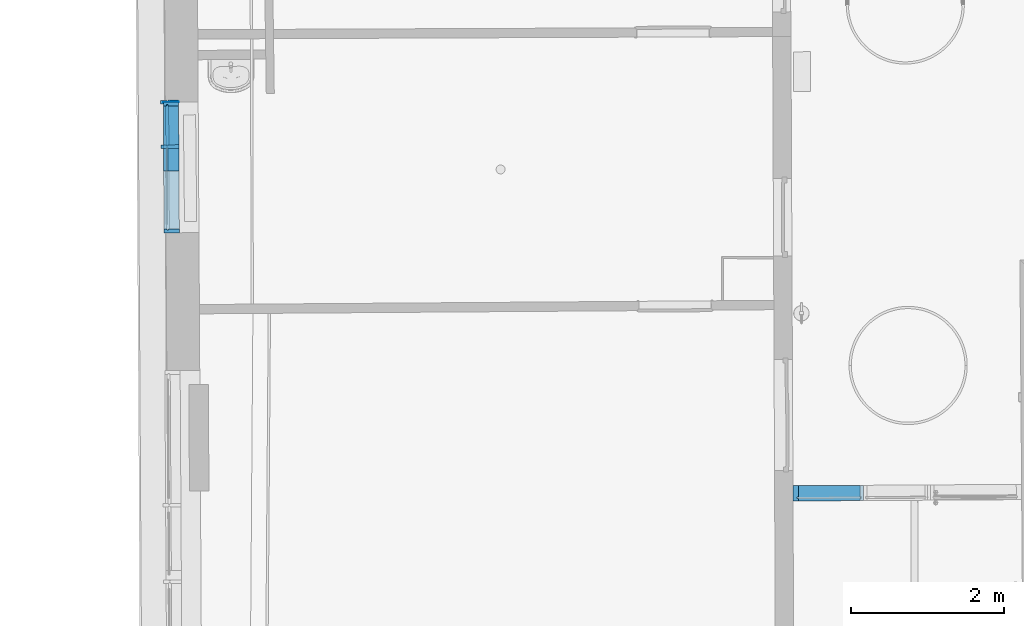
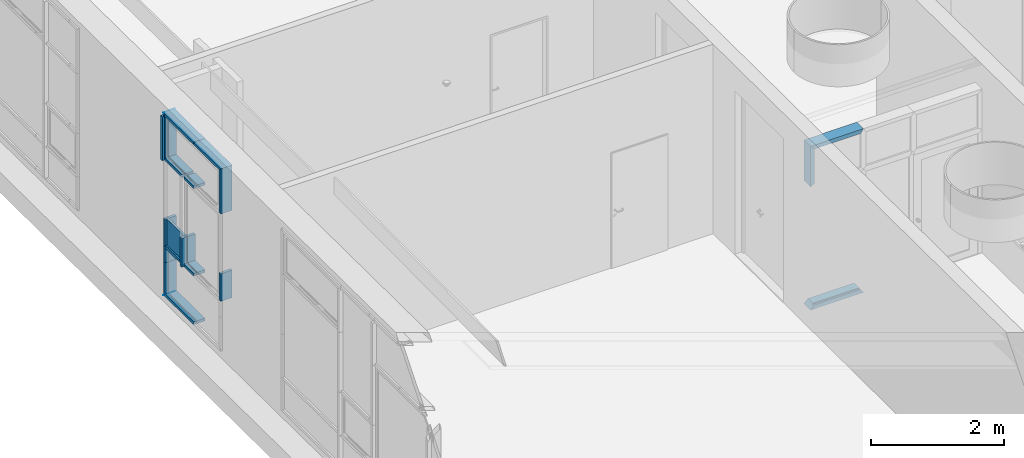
# One storey, part 122 of 158: 21 building element parts, 2 elements without a shape of their own.
"""IFC2X3 building model written with IfcOpenShell, lengths in metres."""

from ifc_helpers import new_model, entity, si_unit, converted_unit, derived_unit, money_unit, direction, frame, origin_with_axes, place, context, subcontext, project, spatial, faceted_brep, material, type_object, element, aggregate, save


model = new_model("IFC2X3")

# Units and contexts
model_context = context("Model", 3, precision=1e-05, world=origin_with_axes(), true_north=direction((0.0, 1.0)))
body_context = subcontext(model_context, "Body", "Model", "MODEL_VIEW")
ifc_project = project(units=[si_unit("LENGTHUNIT", "METRE"), si_unit("AREAUNIT", "SQUARE_METRE"), si_unit("VOLUMEUNIT", "CUBIC_METRE"), converted_unit("PLANEANGLEUNIT", "DEGREE", entity("IfcPlaneAngleMeasure", 0.0174532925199), si_unit("PLANEANGLEUNIT", "RADIAN"), dimensions=[0, 0, 0, 0, 0, 0, 0]), money_unit("EUR"), converted_unit("TIMEUNIT", "Year", entity("IfcTimeMeasure", 31556926.0), si_unit("TIMEUNIT", "SECOND"), dimensions=[0, 0, 1, 0, 0, 0, 0]), si_unit("MASSUNIT", "GRAM", prefix="KILO"), si_unit("THERMODYNAMICTEMPERATUREUNIT", "DEGREE_CELSIUS"), si_unit("LUMINOUSINTENSITYUNIT", "LUMEN"), si_unit("ENERGYUNIT", "JOULE", prefix="MEGA"), derived_unit("THERMALCONDUCTANCEUNIT", [(si_unit("POWERUNIT", "WATT"), 1), (si_unit("LENGTHUNIT", "METRE"), -1), (si_unit("THERMODYNAMICTEMPERATUREUNIT", "KELVIN"), -1)]), derived_unit("SPECIFICHEATCAPACITYUNIT", [(si_unit("ENERGYUNIT", "JOULE"), 1), (si_unit("MASSUNIT", "GRAM", prefix="KILO"), -1), (si_unit("THERMODYNAMICTEMPERATUREUNIT", "KELVIN"), -1)]), derived_unit("MASSDENSITYUNIT", [(si_unit("MASSUNIT", "GRAM", prefix="KILO"), 1), (si_unit("VOLUMEUNIT", "CUBIC_METRE"), -1)])], contexts=[model_context])

# Site, building, storey
site_placement = place(None, origin_with_axes())
site = spatial("IfcSite", under=ifc_project, at=site_placement, Name="Gelände", CompositionType="ELEMENT")
building_placement = place(site_placement, origin_with_axes())
building = spatial("IfcBuilding", under=site, at=building_placement, Name="Gebäude", CompositionType="ELEMENT")
storey_placement = place(building_placement, origin_with_axes())
storey = spatial("IfcBuildingStorey", under=building, at=storey_placement, Name="ERDGESCHOSS", CompositionType="ELEMENT", Elevation=0.0)

# Proxy, building element parts
building_element_proxy_type = type_object("IfcBuildingElementProxyType", Name="Fassadentyp", PredefinedType="NOTDEFINED")
proxy_1_placement = place(storey_placement, frame((-34.8671799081, 43.8049527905, 1.34043902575), z_axis=(0.0, 0.0, 1.0), x_axis=(1.0, 0.0, 0.0)))
proxy_1 = element("IfcBuildingElementProxy", 1, at=proxy_1_placement, inside=storey, type_object=building_element_proxy_type, Name="Fassade-002")
ifc_material_1 = material(Name="45_Glas, Normalglas")
building_element_part_1_placement = place(proxy_1_placement, origin_with_axes())
building_element_part_1 = element("IfcBuildingElementPart", 2, at=building_element_part_1_placement, material=ifc_material_1, Name="45_Glas, Normalglas", context=body_context, shape_type="Brep", body=[
    faceted_brep([(0.0184981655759, 0.256133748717, 1.42000003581), (0.0153362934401, 0.795258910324, 1.42000003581), (-0.0246630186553, 0.795024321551, 1.42000003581), (-0.0215011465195, 0.255899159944, 1.42000003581), (0.0184981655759, 0.256133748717, 0.925545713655), (0.0154184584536, 0.781249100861, 0.925545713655), (0.0154184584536, 0.781249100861, 0.915545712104), (0.0153362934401, 0.795258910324, 0.915545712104), (-0.0246630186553, 0.795024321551, 0.915545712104), (-0.0245808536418, 0.781014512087, 0.915545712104), (-0.0245808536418, 0.781014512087, 0.925545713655), (-0.0215011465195, 0.255899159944, 0.925545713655)], [[[0, 1, 2, 3]], [[0, 4, 5, 6, 7, 1]], [[1, 7, 8, 2]], [[3, 2, 8, 9, 10, 11]], [[4, 0, 3, 11]], [[5, 4, 11, 10]], [[6, 5, 10, 9]], [[7, 6, 9, 8]]]),
])
ifc_material_2 = material(Name="53_Metall, Aluminium")
building_element_part_2_placement = place(proxy_1_placement, origin_with_axes())
building_element_part_2 = element("IfcBuildingElementPart", 3, at=building_element_part_2_placement, material=ifc_material_2, Name="53_Metall, Aluminium", context=body_context, shape_type="Brep", body=[
    faceted_brep([(0.0104198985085, -0.0715668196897, 0.035), (-0.00957975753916, -0.0716841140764, 0.035), (-0.00957975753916, -0.0716841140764, 0.05), (-0.0495790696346, -0.0719187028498, 0.05), (-0.0495790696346, -0.0719187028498, 0.0), (0.150417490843, -0.0707457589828, 0.0), (0.150417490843, -0.0707457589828, 0.05), (0.0104198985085, -0.0715668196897, 0.05), (0.00514165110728, 0.828417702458, 0.035), (-0.0148580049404, 0.828300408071, 0.035), (-0.0148580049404, 0.828300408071, 0.05), (-0.0548573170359, 0.828065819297, 0.05), (-0.0548573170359, 0.828065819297, 0.0), (0.145139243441, 0.829238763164, 0.0), (0.145139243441, 0.829238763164, 0.05), (0.00514165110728, 0.828417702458, 0.05)], [[[0, 1, 2, 3, 4, 5, 6, 7]], [[1, 0, 8, 9]], [[10, 2, 1, 9]], [[2, 10, 11, 3]], [[12, 4, 3, 11]], [[13, 5, 4, 12]], [[14, 6, 5, 13]], [[15, 7, 6, 14]], [[0, 7, 15, 8]], [[8, 15, 14, 13, 12, 11, 10, 9]]]),
])
building_element_part_3_placement = place(proxy_1_placement, origin_with_axes())
building_element_part_3 = element("IfcBuildingElementPart", 4, at=building_element_part_3_placement, material=ifc_material_2, Name="53_Metall, Aluminium", context=body_context, shape_type="Brep", body=[
    faceted_brep([(0.0104198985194, -0.0715668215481, 0.905545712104), (0.0104198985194, -0.0715668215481, 0.890545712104), (0.150417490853, -0.0707457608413, 0.890545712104), (0.150417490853, -0.0707457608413, 0.940545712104), (0.0104198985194, -0.0715668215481, 0.940545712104), (0.0104198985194, -0.0715668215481, 0.925545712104), (-0.00957975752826, -0.0716841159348, 0.925545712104), (-0.00957975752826, -0.0716841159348, 0.940545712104), (-0.0495790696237, -0.0719187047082, 0.940545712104), (-0.0495790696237, -0.0719187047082, 0.890545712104), (-0.00957975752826, -0.0716841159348, 0.890545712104), (-0.00957975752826, -0.0716841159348, 0.905545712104), (0.00870360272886, 0.221075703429, 0.905545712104), (0.00870360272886, 0.221075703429, 0.890545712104), (0.148701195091, 0.221896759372, 0.890545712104), (0.148701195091, 0.221896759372, 0.940545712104), (0.00870360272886, 0.221075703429, 0.940545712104), (0.00870360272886, 0.221075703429, 0.925545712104), (-0.0112960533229, 0.220958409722, 0.925545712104), (-0.0112960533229, 0.220958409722, 0.940545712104), (-0.0512953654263, 0.22072382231, 0.940545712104), (-0.0512953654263, 0.22072382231, 0.890545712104), (-0.0112960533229, 0.220958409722, 0.890545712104), (-0.0112960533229, 0.220958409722, 0.905545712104)], [[[0, 1, 2, 3, 4, 5, 6, 7, 8, 9, 10, 11]], [[1, 0, 12, 13]], [[1, 13, 14, 2]], [[2, 14, 15, 3]], [[4, 3, 15, 16]], [[4, 16, 17, 5]], [[5, 17, 18, 6]], [[7, 6, 18, 19]], [[19, 20, 8, 7]], [[8, 20, 21, 9]], [[22, 10, 9, 21]], [[11, 10, 22, 23]], [[0, 11, 23, 12]], [[23, 22, 21, 20, 19, 18, 17, 16, 15, 14, 13, 12]]]),
])
building_element_part_4_placement = place(proxy_1_placement, origin_with_axes())
building_element_part_4 = element("IfcBuildingElementPart", 5, at=building_element_part_4_placement, material=ifc_material_2, Name="53_Metall, Aluminium", context=body_context, shape_type="Brep", body=[
    faceted_brep([(0.00533646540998, 0.795200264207, 1.42000003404), (0.0054244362, 0.780200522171, 1.42000003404), (0.145422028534, 0.781021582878, 1.42000003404), (0.145128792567, 0.831020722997, 1.42000003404), (-0.0548677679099, 0.82984777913, 1.42000003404), (-0.0545745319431, 0.779848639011, 1.42000003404), (-0.0145752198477, 0.780083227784, 1.42000003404), (-0.0146631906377, 0.79508296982, 1.42000003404), (0.00533646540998, 0.795200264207, 0.915545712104), (0.0054244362, 0.780200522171, 0.915545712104), (0.145422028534, 0.781021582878, 0.915545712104), (0.145128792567, 0.831020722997, 0.915545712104), (-0.0548677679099, 0.82984777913, 0.915545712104), (-0.0545745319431, 0.779848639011, 0.915545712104), (-0.0145752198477, 0.780083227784, 0.915545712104), (-0.0146631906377, 0.79508296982, 0.915545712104)], [[[0, 1, 2, 3, 4, 5, 6, 7]], [[0, 8, 9, 1]], [[9, 10, 2, 1]], [[10, 11, 3, 2]], [[11, 12, 4, 3]], [[12, 13, 5, 4]], [[6, 5, 13, 14]], [[14, 15, 7, 6]], [[7, 15, 8, 0]], [[8, 15, 14, 13, 12, 11, 10, 9]]]),
])
building_element_part_5_placement = place(proxy_1_placement, origin_with_axes())
building_element_part_5 = element("IfcBuildingElementPart", 6, at=building_element_part_5_placement, material=ifc_material_2, Name="53_Metall, Aluminium", context=body_context, shape_type="Brep", body=[
    faceted_brep([(0.00533646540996, 0.795200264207, 0.620000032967), (0.00542443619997, 0.780200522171, 0.620000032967), (0.145422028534, 0.781021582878, 0.620000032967), (0.145128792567, 0.831020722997, 0.620000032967), (-0.0548677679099, 0.82984777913, 0.620000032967), (-0.0545745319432, 0.779848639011, 0.620000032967), (-0.0145752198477, 0.780083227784, 0.620000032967), (-0.0146631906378, 0.79508296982, 0.620000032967), (0.00533646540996, 0.795200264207, 0.0349999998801), (0.00542443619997, 0.780200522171, 0.0499999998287), (0.145422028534, 0.781021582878, 0.0499999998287), (0.145128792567, 0.831020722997, 0.0), (-0.0548677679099, 0.82984777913, 0.0), (-0.0545745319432, 0.779848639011, 0.0499999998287), (-0.0145752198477, 0.780083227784, 0.0499999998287), (-0.0146631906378, 0.79508296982, 0.0349999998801)], [[[0, 1, 2, 3, 4, 5, 6, 7]], [[0, 8, 9, 1]], [[9, 10, 2, 1]], [[2, 10, 11, 3]], [[3, 11, 12, 4]], [[4, 12, 13, 5]], [[6, 5, 13, 14]], [[14, 15, 7, 6]], [[7, 15, 8, 0]], [[8, 15, 14, 13, 12, 11, 10, 9]]]),
])
building_element_part_6_placement = place(proxy_1_placement, origin_with_axes())
building_element_part_6 = element("IfcBuildingElementPart", 7, at=building_element_part_6_placement, material=ifc_material_2, Name="53_Metall, Aluminium", context=body_context, shape_type="Brep", body=[
    faceted_brep([(0.00841036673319, 0.271074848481, 2.51000003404), (0.00841036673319, 0.271074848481, 2.49500003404), (0.148407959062, 0.271895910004, 2.49500003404), (0.148407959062, 0.271895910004, 2.54500003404), (0.00841036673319, 0.271074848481, 2.54500003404), (0.00841036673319, 0.271074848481, 2.53000003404), (-0.0115892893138, 0.270957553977, 2.53000003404), (-0.0115892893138, 0.270957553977, 2.54500003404), (-0.0515886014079, 0.270722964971, 2.54500003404), (-0.0515886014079, 0.270722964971, 2.49500003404), (-0.0115892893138, 0.270957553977, 2.49500003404), (-0.0115892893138, 0.270957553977, 2.51000003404), (0.00528826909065, 0.803418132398, 2.51000003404), (0.00528826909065, 0.803418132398, 2.49500003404), (0.145285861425, 0.804239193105, 2.49500003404), (0.145285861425, 0.804239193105, 2.54500003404), (0.00528826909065, 0.803418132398, 2.54500003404), (0.00528826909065, 0.803418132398, 2.53000003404), (-0.0147113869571, 0.803300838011, 2.53000003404), (-0.0147113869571, 0.803300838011, 2.54500003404), (-0.0547106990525, 0.803066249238, 2.54500003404), (-0.0547106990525, 0.803066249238, 2.49500003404), (-0.0147113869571, 0.803300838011, 2.49500003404), (-0.0147113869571, 0.803300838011, 2.51000003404)], [[[0, 1, 2, 3, 4, 5, 6, 7, 8, 9, 10, 11]], [[1, 0, 12, 13]], [[1, 13, 14, 2]], [[2, 14, 15, 3]], [[4, 3, 15, 16]], [[4, 16, 17, 5]], [[5, 17, 18, 6]], [[7, 6, 18, 19]], [[19, 20, 8, 7]], [[8, 20, 21, 9]], [[22, 10, 9, 21]], [[11, 10, 22, 23]], [[0, 11, 23, 12]], [[23, 22, 21, 20, 19, 18, 17, 16, 15, 14, 13, 12]]]),
])
building_element_part_7_placement = place(proxy_1_placement, origin_with_axes())
building_element_part_7 = element("IfcBuildingElementPart", 8, at=building_element_part_7_placement, material=ifc_material_2, Name="53_Metall, Aluminium", context=body_context, shape_type="Brep", body=[
    faceted_brep([(0.0149540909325, -0.844683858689, 1.42000003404), (-0.00504556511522, -0.844801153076, 1.42000003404), (-0.00513353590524, -0.82980141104, 1.42000003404), (-0.0451328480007, -0.830035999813, 1.42000003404), (-0.0448396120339, -0.880035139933, 1.42000003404), (0.155156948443, -0.878862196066, 1.42000003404), (0.154863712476, -0.828863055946, 1.42000003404), (0.0148661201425, -0.829684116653, 1.42000003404), (0.0149540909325, -0.844683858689, 0.915545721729), (-0.00504556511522, -0.844801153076, 0.915545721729), (-0.00513353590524, -0.82980141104, 0.915545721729), (-0.0451328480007, -0.830035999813, 0.915545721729), (-0.0448396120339, -0.880035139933, 0.915545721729), (0.155156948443, -0.878862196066, 0.915545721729), (0.154863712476, -0.828863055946, 0.915545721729), (0.0148661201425, -0.829684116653, 0.915545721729)], [[[0, 1, 2, 3, 4, 5, 6, 7]], [[1, 0, 8, 9]], [[10, 2, 1, 9]], [[2, 10, 11, 3]], [[12, 4, 3, 11]], [[13, 5, 4, 12]], [[14, 6, 5, 13]], [[15, 7, 6, 14]], [[0, 7, 15, 8]], [[8, 15, 14, 13, 12, 11, 10, 9]]]),
])
building_element_part_8_placement = place(proxy_1_placement, origin_with_axes())
building_element_part_8 = element("IfcBuildingElementPart", 9, at=building_element_part_8_placement, material=ifc_material_2, Name="53_Metall, Aluminium", context=body_context, shape_type="Brep", body=[
    faceted_brep([(0.0104198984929, -0.0715668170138, 2.51000003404), (0.0104198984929, -0.0715668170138, 2.49500003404), (0.150417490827, -0.0707457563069, 2.49500003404), (0.150417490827, -0.0707457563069, 2.54500003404), (0.0104198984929, -0.0715668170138, 2.54500003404), (0.0104198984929, -0.0715668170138, 2.53000003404), (-0.00957975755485, -0.0716841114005, 2.53000003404), (-0.00957975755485, -0.0716841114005, 2.54500003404), (-0.0495790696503, -0.0719187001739, 2.54500003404), (-0.0495790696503, -0.0719187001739, 2.49500003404), (-0.00957975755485, -0.0716841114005, 2.49500003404), (-0.00957975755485, -0.0716841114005, 2.51000003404), (0.00870360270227, 0.221075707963, 2.51000003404), (0.00870360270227, 0.221075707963, 2.49500003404), (0.148701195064, 0.221896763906, 2.49500003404), (0.148701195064, 0.221896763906, 2.54500003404), (0.00870360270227, 0.221075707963, 2.54500003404), (0.00870360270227, 0.221075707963, 2.53000003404), (-0.0112960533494, 0.220958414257, 2.53000003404), (-0.0112960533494, 0.220958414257, 2.54500003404), (-0.0512953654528, 0.220723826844, 2.54500003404), (-0.0512953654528, 0.220723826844, 2.49500003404), (-0.0112960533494, 0.220958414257, 2.49500003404), (-0.0112960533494, 0.220958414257, 2.51000003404)], [[[0, 1, 2, 3, 4, 5, 6, 7, 8, 9, 10, 11]], [[1, 0, 12, 13]], [[1, 13, 14, 2]], [[2, 14, 15, 3]], [[4, 3, 15, 16]], [[4, 16, 17, 5]], [[5, 17, 18, 6]], [[7, 6, 18, 19]], [[19, 20, 8, 7]], [[8, 20, 21, 9]], [[22, 10, 9, 21]], [[11, 10, 22, 23]], [[0, 11, 23, 12]], [[23, 22, 21, 20, 19, 18, 17, 16, 15, 14, 13, 12]]]),
])
building_element_part_9_placement = place(proxy_1_placement, origin_with_axes())
building_element_part_9 = element("IfcBuildingElementPart", 10, at=building_element_part_9_placement, material=ifc_material_2, Name="53_Metall, Aluminium", context=body_context, shape_type="Brep", body=[
    faceted_brep([(0.0084103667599, 0.271074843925, 0.905545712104), (0.0084103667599, 0.271074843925, 0.890545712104), (0.148407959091, 0.271895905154, 0.890545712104), (0.148407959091, 0.271895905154, 0.940545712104), (0.0084103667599, 0.271074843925, 0.940545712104), (0.0084103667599, 0.271074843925, 0.925545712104), (-0.0115892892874, 0.270957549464, 0.925545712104), (-0.0115892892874, 0.270957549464, 0.940545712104), (-0.0515886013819, 0.270722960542, 0.940545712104), (-0.0515886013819, 0.270722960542, 0.890545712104), (-0.0115892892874, 0.270957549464, 0.890545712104), (-0.0115892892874, 0.270957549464, 0.905545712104), (0.00541863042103, 0.781190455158, 0.905545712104), (0.00541863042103, 0.781190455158, 0.890545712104), (0.145416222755, 0.782011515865, 0.890545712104), (0.145416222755, 0.782011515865, 0.940545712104), (0.00541863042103, 0.781190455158, 0.940545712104), (0.00541863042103, 0.781190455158, 0.925545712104), (-0.0145810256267, 0.781073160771, 0.925545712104), (-0.0145810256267, 0.781073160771, 0.940545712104), (-0.0545803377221, 0.780838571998, 0.940545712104), (-0.0545803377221, 0.780838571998, 0.890545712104), (-0.0145810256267, 0.781073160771, 0.890545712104), (-0.0145810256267, 0.781073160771, 0.905545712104)], [[[0, 1, 2, 3, 4, 5, 6, 7, 8, 9, 10, 11]], [[1, 0, 12, 13]], [[1, 13, 14, 2]], [[3, 2, 14, 15]], [[4, 3, 15, 16]], [[4, 16, 17, 5]], [[5, 17, 18, 6]], [[7, 6, 18, 19]], [[19, 20, 8, 7]], [[9, 8, 20, 21]], [[22, 10, 9, 21]], [[11, 10, 22, 23]], [[0, 11, 23, 12]], [[23, 22, 21, 20, 19, 18, 17, 16, 15, 14, 13, 12]]]),
])
building_element_part_10_placement = place(proxy_1_placement, origin_with_axes())
building_element_part_10 = element("IfcBuildingElementPart", 11, at=building_element_part_10_placement, material=ifc_material_2, Name="53_Metall, Aluminium", context=body_context, shape_type="Brep", body=[
    faceted_brep([(0.0104198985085, -0.0715668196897, 3.31499993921), (0.0104198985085, -0.0715668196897, 3.29999993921), (0.150417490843, -0.0707457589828, 3.29999993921), (0.150417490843, -0.0707457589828, 3.34999993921), (-0.0495790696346, -0.0719187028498, 3.34999993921), (-0.0495790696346, -0.0719187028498, 3.29999993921), (-0.00957975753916, -0.0716841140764, 3.29999993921), (-0.00957975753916, -0.0716841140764, 3.31499993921), (0.00514165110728, 0.828417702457, 3.31499993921), (0.00514165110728, 0.828417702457, 3.29999993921), (0.145139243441, 0.829238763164, 3.29999993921), (0.145139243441, 0.829238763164, 3.34999993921), (-0.0548573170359, 0.828065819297, 3.34999993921), (-0.0548573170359, 0.828065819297, 3.29999993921), (-0.0148580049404, 0.828300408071, 3.29999993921), (-0.0148580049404, 0.828300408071, 3.31499993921)], [[[0, 1, 2, 3, 4, 5, 6, 7]], [[0, 8, 9, 1]], [[9, 10, 2, 1]], [[10, 11, 3, 2]], [[11, 12, 4, 3]], [[12, 13, 5, 4]], [[6, 5, 13, 14]], [[14, 15, 7, 6]], [[7, 15, 8, 0]], [[8, 15, 14, 13, 12, 11, 10, 9]]]),
])
building_element_part_11_placement = place(proxy_1_placement, origin_with_axes())
building_element_part_11 = element("IfcBuildingElementPart", 12, at=building_element_part_11_placement, material=ifc_material_2, Name="53_Metall, Aluminium", context=body_context, shape_type="Brep", body=[
    faceted_brep([(0.00533646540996, 0.795200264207, 3.31499994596), (0.00542443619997, 0.780200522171, 3.29999994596), (0.145422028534, 0.781021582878, 3.29999994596), (0.145128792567, 0.831020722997, 3.34999994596), (-0.0548677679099, 0.82984777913, 3.34999994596), (-0.0545745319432, 0.779848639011, 3.29999994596), (-0.0145752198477, 0.780083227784, 3.29999994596), (-0.0146631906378, 0.79508296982, 3.31499994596), (0.00533646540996, 0.795200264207, 2.52000003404), (0.00542443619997, 0.780200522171, 2.52000003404), (0.145422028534, 0.781021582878, 2.52000003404), (0.145128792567, 0.831020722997, 2.52000003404), (-0.0548677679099, 0.82984777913, 2.52000003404), (-0.0545745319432, 0.779848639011, 2.52000003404), (-0.0145752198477, 0.780083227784, 2.52000003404), (-0.0146631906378, 0.79508296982, 2.52000003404)], [[[0, 1, 2, 3, 4, 5, 6, 7]], [[0, 8, 9, 1]], [[9, 10, 2, 1]], [[10, 11, 3, 2]], [[11, 12, 4, 3]], [[12, 13, 5, 4]], [[6, 5, 13, 14]], [[14, 15, 7, 6]], [[7, 15, 8, 0]], [[8, 15, 14, 13, 12, 11, 10, 9]]]),
])
building_element_part_12_placement = place(proxy_1_placement, origin_with_axes())
building_element_part_12 = element("IfcBuildingElementPart", 13, at=building_element_part_12_placement, material=ifc_material_2, Name="53_Metall, Aluminium", context=body_context, shape_type="Brep", body=[
    faceted_brep([(0.00520029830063, 0.818417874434, 3.29999993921), (0.00528826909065, 0.803418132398, 3.29999993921), (0.145285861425, 0.804239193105, 3.29999993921), (0.144992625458, 0.854238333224, 3.29999993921), (0.00499503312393, 0.853417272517, 3.29999993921), (0.00508300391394, 0.838417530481, 3.29999993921), (-0.0149166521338, 0.838300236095, 3.29999993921), (-0.0150046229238, 0.85329997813, 3.29999993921), (-0.0900033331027, 0.85286012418, 3.29999993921), (-0.089710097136, 0.802860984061, 3.29999993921), (-0.0147113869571, 0.803300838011, 3.29999993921), (-0.0147993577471, 0.818300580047, 3.29999993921), (0.00520029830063, 0.818417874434, 2.49500003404), (0.00528826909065, 0.803418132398, 2.49500003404), (0.145285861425, 0.804239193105, 2.49500003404), (0.144992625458, 0.854238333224, 2.49500003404), (0.00499503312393, 0.853417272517, 2.49500003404), (0.00508300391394, 0.838417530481, 2.49500003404), (-0.0149166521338, 0.838300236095, 2.49500003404), (-0.0150046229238, 0.85329997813, 2.49500003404), (-0.0900033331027, 0.85286012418, 2.49500003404), (-0.089710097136, 0.802860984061, 2.49500003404), (-0.0147113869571, 0.803300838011, 2.49500003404), (-0.0147993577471, 0.818300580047, 2.49500003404)], [[[0, 1, 2, 3, 4, 5, 6, 7, 8, 9, 10, 11]], [[1, 0, 12, 13]], [[1, 13, 14, 2]], [[3, 2, 14, 15]], [[4, 3, 15, 16]], [[4, 16, 17, 5]], [[5, 17, 18, 6]], [[7, 6, 18, 19]], [[19, 20, 8, 7]], [[9, 8, 20, 21]], [[22, 10, 9, 21]], [[11, 10, 22, 23]], [[0, 11, 23, 12]], [[23, 22, 21, 20, 19, 18, 17, 16, 15, 14, 13, 12]]]),
])
building_element_part_13_placement = place(proxy_1_placement, origin_with_axes())
building_element_part_13 = element("IfcBuildingElementPart", 14, at=building_element_part_13_placement, material=ifc_material_2, Name="53_Metall, Aluminium", context=body_context, shape_type="Brep", body=[
    faceted_brep([(0.00861563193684, 0.236075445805, 1.42000003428), (0.00870360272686, 0.221075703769, 1.42000003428), (0.148701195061, 0.221896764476, 1.42000003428), (0.148407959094, 0.271895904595, 1.42000003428), (0.00841036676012, 0.271074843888, 1.42000003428), (0.00849833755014, 0.256075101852, 1.42000003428), (-0.0115013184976, 0.255957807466, 1.42000003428), (-0.0115892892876, 0.270957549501, 1.42000003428), (-0.0865879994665, 0.270517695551, 1.42000003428), (-0.0862947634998, 0.220518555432, 1.42000003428), (-0.0112960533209, 0.220958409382, 1.42000003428), (-0.0113840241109, 0.235958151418, 1.42000003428), (0.00861563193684, 0.236075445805, 0.890545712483), (0.00870360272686, 0.221075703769, 0.890545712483), (0.148701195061, 0.221896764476, 0.890545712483), (0.148407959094, 0.271895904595, 0.890545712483), (0.00841036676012, 0.271074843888, 0.890545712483), (0.00849833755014, 0.256075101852, 0.890545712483), (-0.0115013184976, 0.255957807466, 0.890545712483), (-0.0115892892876, 0.270957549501, 0.890545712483), (-0.0865879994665, 0.270517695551, 0.890545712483), (-0.0862947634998, 0.220518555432, 0.890545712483), (-0.0112960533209, 0.220958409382, 0.890545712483), (-0.0113840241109, 0.235958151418, 0.890545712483)], [[[0, 1, 2, 3, 4, 5, 6, 7, 8, 9, 10, 11]], [[1, 0, 12, 13]], [[1, 13, 14, 2]], [[3, 2, 14, 15]], [[4, 3, 15, 16]], [[4, 16, 17, 5]], [[5, 17, 18, 6]], [[7, 6, 18, 19]], [[19, 20, 8, 7]], [[9, 8, 20, 21]], [[22, 10, 9, 21]], [[11, 10, 22, 23]], [[0, 11, 23, 12]], [[23, 22, 21, 20, 19, 18, 17, 16, 15, 14, 13, 12]]]),
])
building_element_part_14_placement = place(proxy_1_placement, origin_with_axes())
building_element_part_14 = element("IfcBuildingElementPart", 15, at=building_element_part_14_placement, material=ifc_material_2, Name="53_Metall, Aluminium", context=body_context, shape_type="Brep", body=[
    faceted_brep([(-0.0548677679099, 0.82984777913, 3.34999993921), (-0.0548573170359, 0.828065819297, 3.34821794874), (-0.0548573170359, 0.828065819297, 3.34999993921), (0.145128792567, 0.831020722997, 3.34999993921), (0.145139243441, 0.829238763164, 3.34821794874), (0.145139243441, 0.829238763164, 3.34999993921)], [[[0, 1, 2]], [[1, 0, 3, 4]], [[1, 4, 5, 2]], [[3, 0, 2, 5]], [[4, 3, 5]]]),
])
building_element_part_15_placement = place(proxy_1_placement, origin_with_axes())
building_element_part_15 = element("IfcBuildingElementPart", 16, at=building_element_part_15_placement, material=ifc_material_2, Name="53_Metall, Aluminium", context=body_context, shape_type="Brep", body=[
    faceted_brep([(-0.0548677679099, 0.82984777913, 0.0), (-0.0548573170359, 0.828065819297, 0.0), (-0.0548573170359, 0.828065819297, 0.00178199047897), (0.145128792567, 0.831020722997, 0.0), (0.145139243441, 0.829238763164, 0.0), (0.145139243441, 0.829238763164, 0.00178199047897)], [[[0, 1, 2]], [[3, 4, 1, 0]], [[2, 1, 4, 5]], [[2, 5, 3, 0]], [[5, 4, 3]]]),
])
building_element_part_16_placement = place(proxy_1_placement, origin_with_axes())
building_element_part_16 = element("IfcBuildingElementPart", 17, at=building_element_part_16_placement, material=ifc_material_2, Name="53_Metall, Aluminium", context=body_context, shape_type="Brep", body=[
    faceted_brep([(0.0149540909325, -0.844683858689, 3.31499993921), (0.0148661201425, -0.829684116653, 3.29999993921), (0.154863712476, -0.828863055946, 3.29999993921), (0.155156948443, -0.878862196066, 3.34999993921), (-0.0448396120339, -0.880035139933, 3.34999993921), (-0.0451328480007, -0.830035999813, 3.29999993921), (-0.00513353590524, -0.82980141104, 3.29999993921), (-0.00504556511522, -0.844801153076, 3.31499993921), (0.0104198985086, -0.0715668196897, 3.31499993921), (0.0104198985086, -0.0715668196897, 3.29999993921), (0.150417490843, -0.0707457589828, 3.29999993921), (0.150417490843, -0.0707457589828, 3.34999993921), (-0.0495790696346, -0.0719187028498, 3.34999993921), (-0.0495790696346, -0.0719187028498, 3.29999993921), (-0.00957975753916, -0.0716841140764, 3.29999993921), (-0.00957975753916, -0.0716841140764, 3.31499993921)], [[[0, 1, 2, 3, 4, 5, 6, 7]], [[0, 8, 9, 1]], [[9, 10, 2, 1]], [[10, 11, 3, 2]], [[11, 12, 4, 3]], [[12, 13, 5, 4]], [[6, 5, 13, 14]], [[14, 15, 7, 6]], [[7, 15, 8, 0]], [[8, 15, 14, 13, 12, 11, 10, 9]]]),
])
building_element_part_17_placement = place(proxy_1_placement, origin_with_axes())
building_element_part_17 = element("IfcBuildingElementPart", 18, at=building_element_part_17_placement, material=ifc_material_2, Name="53_Metall, Aluminium", context=body_context, shape_type="Brep", body=[
    faceted_brep([(0.0149540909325, -0.844683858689, 3.31499994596), (-0.00504556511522, -0.844801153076, 3.31499994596), (-0.00513353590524, -0.82980141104, 3.29999994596), (-0.0451328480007, -0.830035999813, 3.29999994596), (-0.0448396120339, -0.880035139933, 3.34999994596), (0.155156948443, -0.878862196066, 3.34999994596), (0.154863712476, -0.828863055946, 3.29999994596), (0.0148661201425, -0.829684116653, 3.29999994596), (0.0149540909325, -0.844683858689, 2.52000003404), (-0.00504556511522, -0.844801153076, 2.52000003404), (-0.00513353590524, -0.82980141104, 2.52000003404), (-0.0451328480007, -0.830035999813, 2.52000003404), (-0.0448396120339, -0.880035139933, 2.52000003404), (0.155156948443, -0.878862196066, 2.52000003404), (0.154863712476, -0.828863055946, 2.52000003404), (0.0148661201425, -0.829684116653, 2.52000003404)], [[[0, 1, 2, 3, 4, 5, 6, 7]], [[1, 0, 8, 9]], [[10, 2, 1, 9]], [[2, 10, 11, 3]], [[12, 4, 3, 11]], [[13, 5, 4, 12]], [[14, 6, 5, 13]], [[15, 7, 6, 14]], [[0, 7, 15, 8]], [[8, 15, 14, 13, 12, 11, 10, 9]]]),
])
building_element_part_18_placement = place(proxy_1_placement, origin_with_axes())
building_element_part_18 = element("IfcBuildingElementPart", 19, at=building_element_part_18_placement, material=ifc_material_2, Name="53_Metall, Aluminium", context=body_context, shape_type="Brep", body=[
    faceted_brep([(0.00533646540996, 0.795200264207, 0.915545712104), (0.00542443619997, 0.780200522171, 0.915545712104), (0.145422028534, 0.781021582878, 0.915545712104), (0.145128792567, 0.831020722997, 0.915545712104), (-0.0548677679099, 0.82984777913, 0.915545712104), (-0.0545745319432, 0.779848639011, 0.915545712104), (-0.0145752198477, 0.780083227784, 0.915545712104), (-0.0146631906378, 0.79508296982, 0.915545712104), (0.00533646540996, 0.795200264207, 0.620000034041), (0.00542443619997, 0.780200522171, 0.620000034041), (0.145422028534, 0.781021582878, 0.620000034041), (0.145128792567, 0.831020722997, 0.620000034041), (-0.0548677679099, 0.82984777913, 0.620000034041), (-0.0545745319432, 0.779848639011, 0.620000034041), (-0.0145752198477, 0.780083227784, 0.620000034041), (-0.0146631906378, 0.79508296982, 0.620000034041)], [[[0, 1, 2, 3, 4, 5, 6, 7]], [[0, 8, 9, 1]], [[9, 10, 2, 1]], [[10, 11, 3, 2]], [[11, 12, 4, 3]], [[12, 13, 5, 4]], [[6, 5, 13, 14]], [[14, 15, 7, 6]], [[7, 15, 8, 0]], [[8, 15, 14, 13, 12, 11, 10, 9]]]),
])
aggregate(proxy_1, [building_element_part_1, building_element_part_2, building_element_part_3, building_element_part_4, building_element_part_5, building_element_part_6, building_element_part_7, building_element_part_8, building_element_part_9, building_element_part_10, building_element_part_11, building_element_part_12, building_element_part_13, building_element_part_14, building_element_part_15, building_element_part_16, building_element_part_17, building_element_part_18])

proxy_2_placement = place(storey_placement, frame((-24.5086107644, 39.472840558, 1.345), z_axis=(0.0, 0.0, 1.0), x_axis=(1.0, 0.0, 0.0)))
proxy_2 = element("IfcBuildingElementProxy", 20, at=proxy_2_placement, inside=storey, type_object=building_element_proxy_type, Name="Fassade-002")
building_element_part_19_placement = place(proxy_2_placement, origin_with_axes())
building_element_part_19 = element("IfcBuildingElementPart", 21, at=building_element_part_19_placement, material=ifc_material_2, Name="53_Metall, Aluminium", context=body_context, shape_type="Brep", body=[
    faceted_brep([(-2.12679717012, -0.0230811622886, 0.055), (-2.1269201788, -0.00308154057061, 0.055), (-2.11192046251, -0.00298928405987, 0.07), (-2.11284302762, 0.147007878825, 0.07), (-2.18284170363, 0.146577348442, 0.0), (-2.18161161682, -0.0534188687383, 0.0), (-2.11161294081, -0.052988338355, 0.07), (-2.11179745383, -0.0229889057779, 0.07), (-1.29708913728, -0.0179780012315, 0.055), (-1.29721214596, 0.00202162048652, 0.055), (-1.30685482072, 0.00196231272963, 0.07), (-1.30777738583, 0.151959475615, 0.07), (-1.26277823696, 0.152236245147, 0.0), (-1.26154815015, -0.0477599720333, 0.0), (-1.30654729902, -0.0480367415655, 0.07), (-1.30673181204, -0.0180373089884, 0.07)], [[[0, 1, 2, 3, 4, 5, 6, 7]], [[1, 0, 8, 9]], [[10, 2, 1, 9]], [[2, 10, 11, 3]], [[4, 3, 11, 12]], [[5, 4, 12, 13]], [[6, 5, 13, 14]], [[15, 7, 6, 14]], [[0, 7, 15, 8]], [[8, 15, 14, 13, 12, 11, 10, 9]]]),
])
building_element_part_20_placement = place(proxy_2_placement, origin_with_axes())
building_element_part_20 = element("IfcBuildingElementPart", 22, at=building_element_part_20_placement, material=ifc_material_2, Name="53_Metall, Aluminium", context=body_context, shape_type="Brep", body=[
    faceted_brep([(-2.12679717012, -0.0230811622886, 2.95000001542), (-2.1269201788, -0.00308154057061, 2.95000001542), (-2.11192046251, -0.00298928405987, 2.93500001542), (-2.11284302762, 0.147007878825, 2.93500001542), (-2.18284170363, 0.146577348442, 3.00500001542), (-2.18161161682, -0.0534188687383, 3.00500001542), (-2.11161294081, -0.052988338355, 2.93500001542), (-2.11179745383, -0.0229889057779, 2.93500001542), (-2.12679717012, -0.0230811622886, 2.30003278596), (-2.1269201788, -0.00308154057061, 2.30003278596), (-2.11192046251, -0.00298928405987, 2.31074707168), (-2.11284302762, 0.147007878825, 2.31074707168), (-2.18284170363, 0.146577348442, 2.26074707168), (-2.18161161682, -0.0534188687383, 2.26074707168), (-2.11161294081, -0.052988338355, 2.31074707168), (-2.11179745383, -0.0229889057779, 2.31074707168)], [[[0, 1, 2, 3, 4, 5, 6, 7]], [[1, 0, 8, 9]], [[10, 2, 1, 9]], [[2, 10, 11, 3]], [[12, 4, 3, 11]], [[13, 5, 4, 12]], [[14, 6, 5, 13]], [[15, 7, 6, 14]], [[0, 7, 15, 8]], [[8, 15, 14, 13, 12, 11, 10, 9]]]),
])
building_element_part_21_placement = place(proxy_2_placement, origin_with_axes())
building_element_part_21 = element("IfcBuildingElementPart", 23, at=building_element_part_21_placement, material=ifc_material_2, Name="53_Metall, Aluminium", context=body_context, shape_type="Brep", body=[
    faceted_brep([(-2.12679717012, -0.0230811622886, 2.95000001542), (-2.11179745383, -0.0229889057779, 2.93500001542), (-2.11161294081, -0.052988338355, 2.93500001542), (-2.18161161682, -0.0534188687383, 3.00500001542), (-2.18284170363, 0.146577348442, 3.00500001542), (-2.11284302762, 0.147007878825, 2.93500001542), (-2.11192046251, -0.00298928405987, 2.93500001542), (-2.1269201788, -0.00308154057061, 2.95000001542), (-1.29708913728, -0.0179780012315, 2.95000001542), (-1.30673181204, -0.0180373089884, 2.93500001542), (-1.30654729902, -0.0480367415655, 2.93500001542), (-1.26154815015, -0.0477599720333, 3.00500001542), (-1.26277823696, 0.152236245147, 3.00500001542), (-1.30777738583, 0.151959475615, 2.93500001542), (-1.30685482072, 0.00196231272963, 2.93500001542), (-1.29721214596, 0.00202162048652, 2.95000001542)], [[[0, 1, 2, 3, 4, 5, 6, 7]], [[0, 8, 9, 1]], [[9, 10, 2, 1]], [[2, 10, 11, 3]], [[3, 11, 12, 4]], [[4, 12, 13, 5]], [[6, 5, 13, 14]], [[14, 15, 7, 6]], [[7, 15, 8, 0]], [[8, 15, 14, 13, 12, 11, 10, 9]]]),
])
aggregate(proxy_2, [building_element_part_19, building_element_part_20, building_element_part_21])

save(model, "model.ifc")
